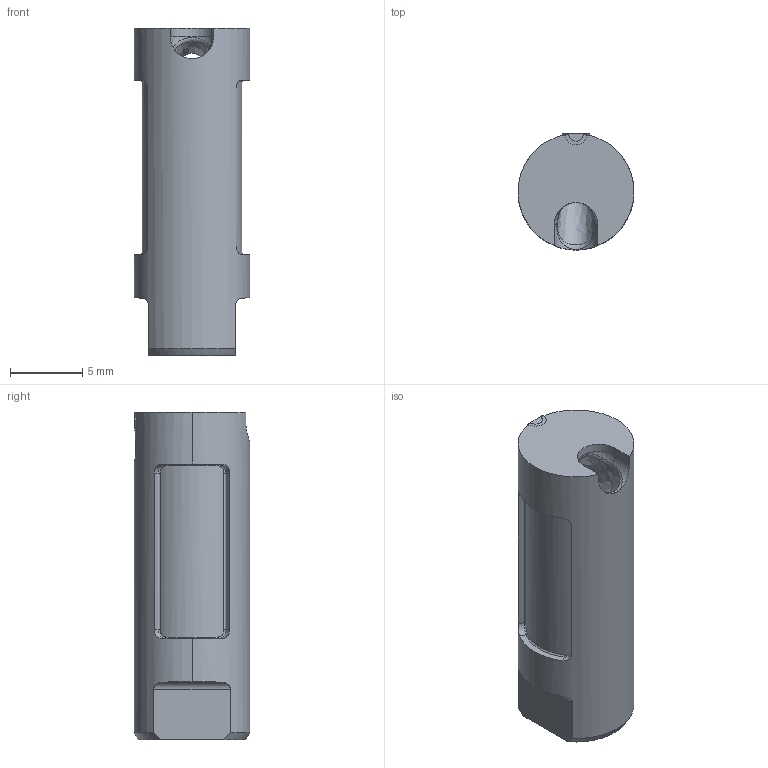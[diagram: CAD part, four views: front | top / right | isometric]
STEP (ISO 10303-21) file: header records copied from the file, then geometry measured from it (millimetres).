
FILE_DESCRIPTION((''),'2;1');
FILE_NAME('TGR8-06-S1','2007-11-27T',('tmeister'),(''),'PRO/ENGINEER BY PARAMETRIC TECHNOLOGY CORPORATION, 2002390','PRO/ENGINEER BY PARAMETRIC TECHNOLOGY CORPORATION, 2002390','');
FILE_SCHEMA(('CONFIG_CONTROL_DESIGN'));
Length unit declared in the file: millimetre
Products named in the file (1): TGR8-06-S1
Bounding box: 8 x 8 x 22.6 mm (x, y, z)
Volume: 846.8 mm3; surface area: 1055.1 mm2
Topology: 1 solids, 3 shells, 75 faces, 266 edges, 192 vertices
Faces by surface type: cylinder 26, plane 18, bspline 18, cone 8, sphere 3, torus 2
Entity records: 5093 total; most frequent: CARTESIAN_POINT 3111, ORIENTED_EDGE 375, DIRECTION 346, EDGE_CURVE 192, AXIS2_PLACEMENT_3D 130, VERTEX_POINT 120, B_SPLINE_CURVE_WITH_KNOTS 106, VECTOR 86
